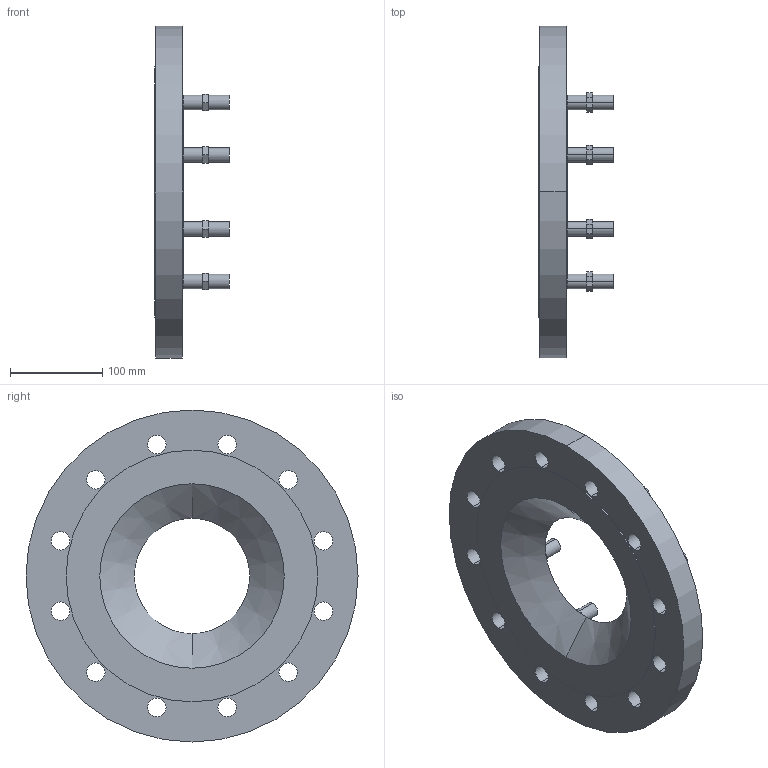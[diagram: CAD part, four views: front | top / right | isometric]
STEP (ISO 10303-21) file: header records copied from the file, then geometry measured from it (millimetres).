
FILE_DESCRIPTION(('STEP AP214'),'1');
FILE_NAME('S:/EK/USER/CAT6/3DHomepage_27-04-2012/VDI-Rohrsysteme_und_Stahlrohre/0802_(8110)/0802_PN16_DN200_DN125.STP','2013-01-25T07:29:02',(' '),(' '),'Spatial InterOp 3D',' ',' ');
FILE_SCHEMA(('automotive_design'));
Length unit declared in the file: millimetre
Products named in the file (18): 3D-Objekt
Bounding box: 81 x 360 x 360 mm (x, y, z)
Volume: 2370457.1 mm3; surface area: 314059.8 mm2
Topology: 18 solids, 18 shells, 135 faces, 294 edges, 196 vertices
Faces by surface type: plane 85, cylinder 48, cone 2
Entity records: 5260 total; most frequent: DIRECTION 700, CARTESIAN_POINT 643, ORIENTED_EDGE 588, EDGE_CURVE 294, AXIS2_PLACEMENT_3D 253, VERTEX_POINT 196, LINE 194, VECTOR 194
